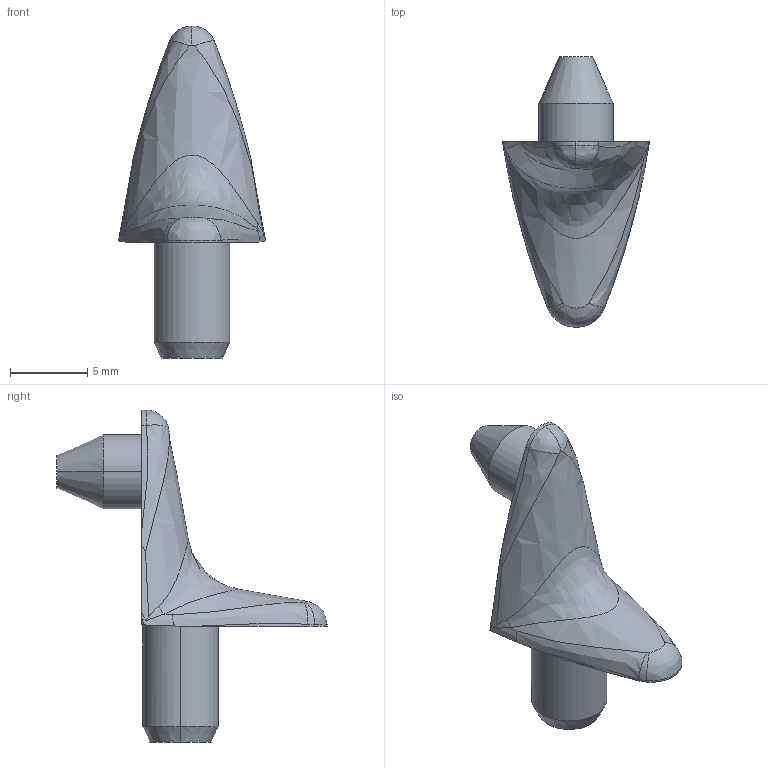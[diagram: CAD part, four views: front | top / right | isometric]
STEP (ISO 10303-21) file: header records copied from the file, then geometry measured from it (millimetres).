
FILE_DESCRIPTION (( 'STEP AP214' ), '1' );
FILE_NAME ('10620.STEP', '2025-10-30T13:06:56', ( '' ), ( '' ), 'SwSTEP 2.0', 'SolidWorks 2022', '' );
FILE_SCHEMA (( 'AUTOMOTIVE_DESIGN' ));
Length unit declared in the file: millimetre
Products named in the file (1): 10620
Bounding box: 9.51 x 17.5 x 21.5 mm (x, y, z)
Volume: 507.6 mm3; surface area: 537.7 mm2
Topology: 1 solids, 1 shells, 44 faces, 105 edges, 65 vertices
Faces by surface type: cylinder 15, bspline 13, cone 10, plane 6
Entity records: 2058 total; most frequent: CARTESIAN_POINT 1126, ORIENTED_EDGE 210, DIRECTION 156, EDGE_CURVE 105, AXIS2_PLACEMENT_3D 66, VERTEX_POINT 65, EDGE_LOOP 46, ADVANCED_FACE 44
